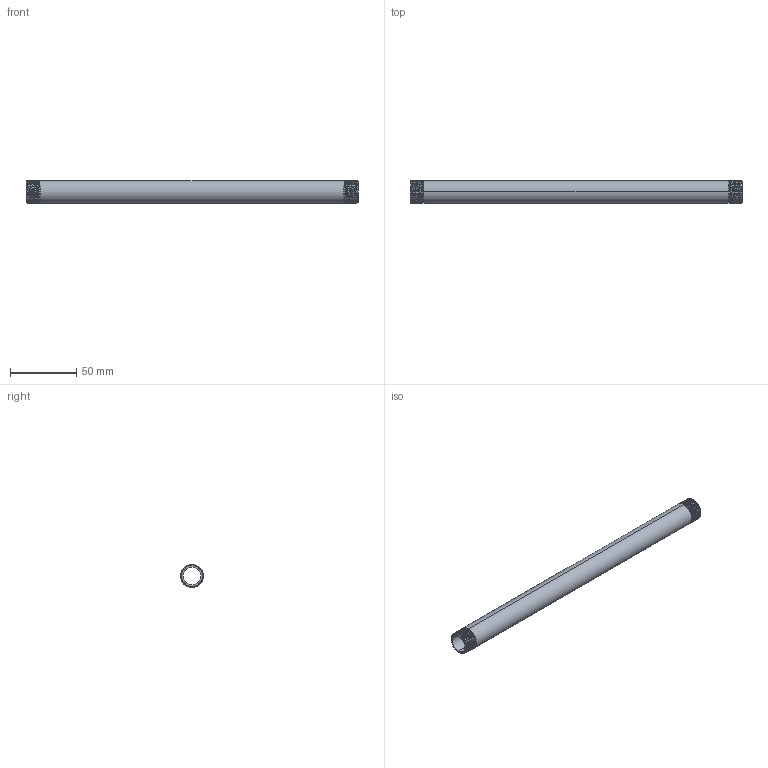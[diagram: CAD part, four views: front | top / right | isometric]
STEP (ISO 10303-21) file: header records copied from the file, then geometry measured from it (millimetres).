
FILE_DESCRIPTION (( 'STEP AP203' ), '1' );
FILE_NAME ('3D_R210_3-8x250_17185921.STEP', '2024-08-16T14:03:06', ( '' ), ( '' ), 'SwSTEP 2.0', 'SolidWorks 2024', '' );
FILE_SCHEMA (( 'CONFIG_CONTROL_DESIGN' ));
Length unit declared in the file: millimetre
Products named in the file (1): 3D_R210_3-8x250_17185921
Bounding box: 250 x 17.19 x 17.2 mm (x, y, z)
Volume: 23525.9 mm3; surface area: 24529 mm2
Topology: 1 solids, 1 shells, 60 faces, 166 edges, 108 vertices
Faces by surface type: cone 46, bspline 6, cylinder 4, plane 4
Entity records: 8905 total; most frequent: CARTESIAN_POINT 7503, ORIENTED_EDGE 332, DIRECTION 194, EDGE_CURVE 166, VERTEX_POINT 108, B_SPLINE_CURVE_WITH_KNOTS 88, AXIS2_PLACEMENT_3D 69, EDGE_LOOP 62
